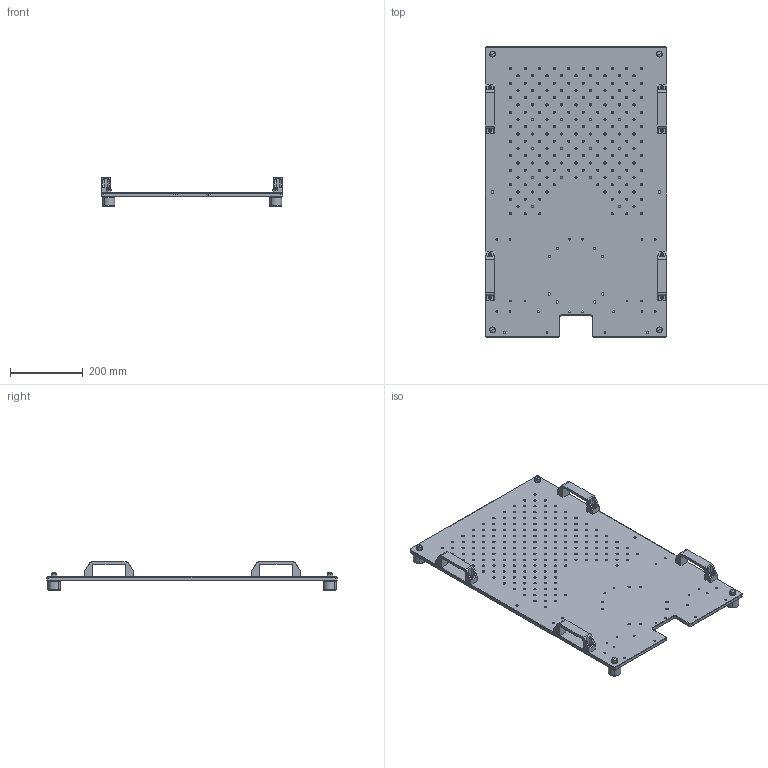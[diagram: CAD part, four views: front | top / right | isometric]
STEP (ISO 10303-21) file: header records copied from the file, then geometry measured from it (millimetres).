
FILE_DESCRIPTION (( 'STEP AP214' ), '1' );
FILE_NAME ('astorino_basePlate.STEP', '2024-05-02T08:51:08', ( '' ), ( '' ), 'SwSTEP 2.0', 'SolidWorks 2021', '' );
FILE_SCHEMA (( 'AUTOMOTIVE_DESIGN' ));
Length unit declared in the file: millimetre
Products named in the file (1): astorino_basePlate
Bounding box: 500 x 800 x 77.6 mm (x, y, z)
Surface area: 910540.7 mm2 (no closed solid volume)
Topology: 0 solids, 34 shells, 1112 faces, 2910 edges, 1815 vertices
Faces by surface type: cylinder 508, cone 398, plane 170, torus 28, sphere 8
Entity records: 47534 total; most frequent: DIRECTION 6636, CARTESIAN_POINT 6068, ORIENTED_EDGE 5566, EDGE_CURVE 2900, AXIS2_PLACEMENT_3D 2655, VERTEX_POINT 1815, EDGE_LOOP 1584, CIRCLE 1542
